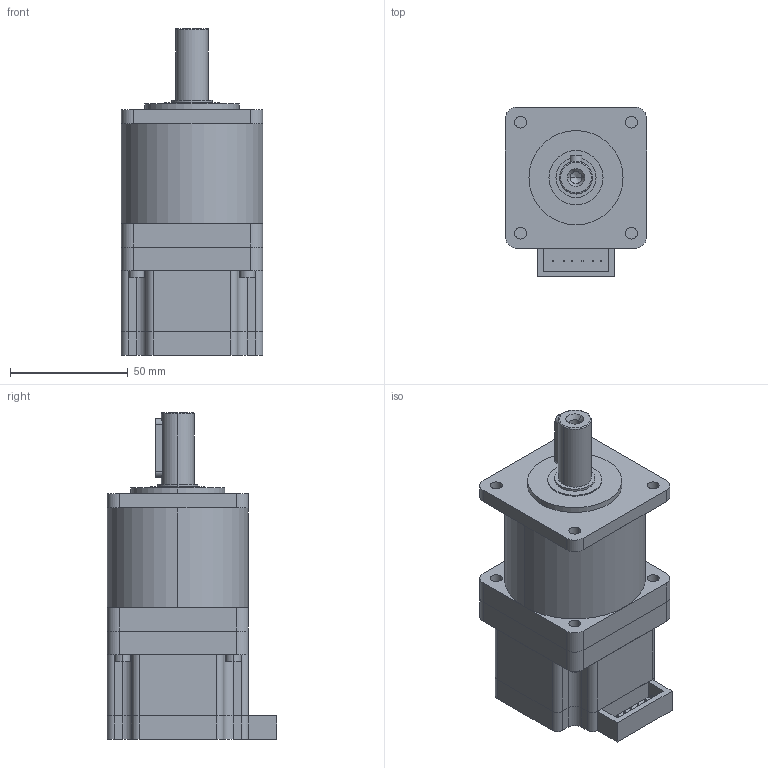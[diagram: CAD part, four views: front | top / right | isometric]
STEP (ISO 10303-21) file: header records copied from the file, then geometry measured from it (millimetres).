
FILE_DESCRIPTION (( 'STEP AP203' ), '1' );
FILE_NAME ('60PG020-D20-0446.STEP', '2019-09-21T07:14:45', ( 'China' ), ( 'Home' ), 'SwSTEP 2.0', 'SolidWorks 2016', '' );
FILE_SCHEMA (( 'CONFIG_CONTROL_DESIGN' ));
Length unit declared in the file: millimetre
Products named in the file (1): 60PG020-D20-0446
Bounding box: 60 x 72 x 138.8 mm (x, y, z)
Volume: 335466.1 mm3; surface area: 61595.2 mm2
Topology: 10 solids, 10 shells, 214 faces, 536 edges, 353 vertices
Faces by surface type: plane 130, cylinder 78, cone 4, torus 2
Entity records: 6551 total; most frequent: CARTESIAN_POINT 1163, DIRECTION 1124, ORIENTED_EDGE 1068, EDGE_CURVE 534, AXIS2_PLACEMENT_3D 378, LINE 368, VECTOR 368, VERTEX_POINT 353
